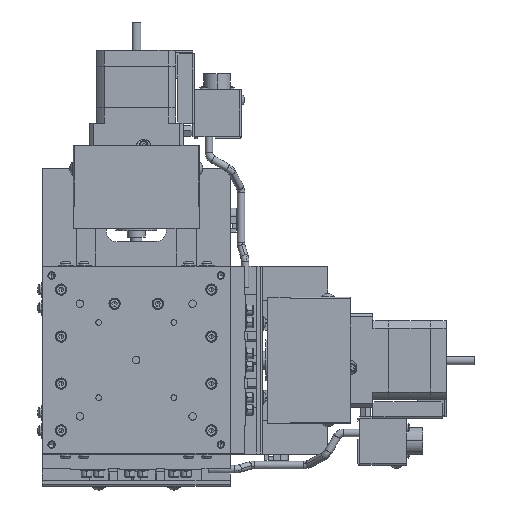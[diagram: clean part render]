
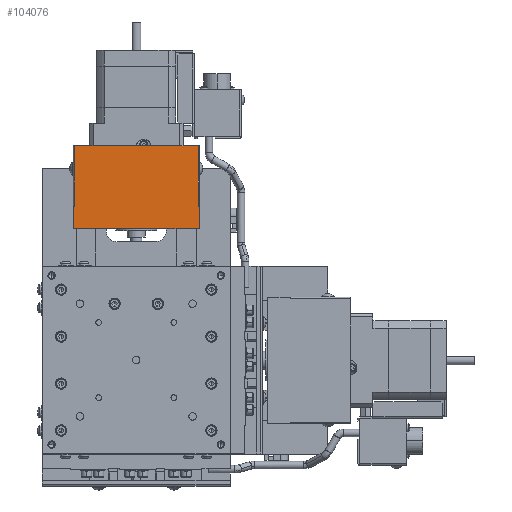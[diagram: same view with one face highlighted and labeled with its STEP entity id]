
A CAD part, top view. The second image highlights one B-rep face of the part: STEP entity #104076.
In plain terms, the highlighted planar face has unit normal (0, 0, 1).
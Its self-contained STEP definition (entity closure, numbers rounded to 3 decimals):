
#1183 = VERTEX_POINT ( 'NONE', #57768 ) ;
#3657 = ORIENTED_EDGE ( 'NONE', *, *, #50676, .T. ) ;
#5391 = DIRECTION ( 'NONE',  ( 0., 1., 0. ) ) ;
#8143 = DIRECTION ( 'NONE',  ( -1., 0., 0. ) ) ;
#10316 = ORIENTED_EDGE ( 'NONE', *, *, #33905, .T. ) ;
#12900 = DIRECTION ( 'NONE',  ( -1., 0., 0. ) ) ;
#13076 = CARTESIAN_POINT ( 'NONE',  ( -226.524, 171.479, -111.876 ) ) ;
#13754 = CARTESIAN_POINT ( 'NONE',  ( -226.524, 238.479, -111.876 ) ) ;
#14276 = CARTESIAN_POINT ( 'NONE',  ( -270.524, 205.011, -111.876 ) ) ;
#19861 = LINE ( 'NONE', #93762, #93294 ) ;
#20634 = CARTESIAN_POINT ( 'NONE',  ( -226.524, 238.479, -111.876 ) ) ;
#20731 = CARTESIAN_POINT ( 'NONE',  ( -238.524, 171.979, -111.876 ) ) ;
#21156 = EDGE_CURVE ( 'NONE', #67833, #86221, #19861, .T. ) ;
#21551 = DIRECTION ( 'NONE',  ( 0., 1., 0. ) ) ;
#22160 = ORIENTED_EDGE ( 'NONE', *, *, #57862, .F. ) ;
#24906 = CARTESIAN_POINT ( 'NONE',  ( -270.524, 204.979, -111.876 ) ) ;
#24981 = DIRECTION ( 'NONE',  ( 0., 1., 0. ) ) ;
#25788 = CARTESIAN_POINT ( 'NONE',  ( -270.524, 179.979, -111.876 ) ) ;
#26344 = DIRECTION ( 'NONE',  ( 0., 1., 0. ) ) ;
#27104 = VECTOR ( 'NONE', #48287, 1000. ) ;
#29024 = VERTEX_POINT ( 'NONE', #20634 ) ;
#29762 = LINE ( 'NONE', #69332, #118171 ) ;
#30378 = LINE ( 'NONE', #24906, #76894 ) ;
#32136 = LINE ( 'NONE', #13754, #116147 ) ;
#33905 = EDGE_CURVE ( 'NONE', #48019, #57407, #91704, .T. ) ;
#34183 = DIRECTION ( 'NONE',  ( 0., 1., 0. ) ) ;
#35701 = EDGE_CURVE ( 'NONE', #91743, #82474, #49614, .T. ) ;
#36647 = EDGE_CURVE ( 'NONE', #48019, #1183, #116751, .T. ) ;
#38147 = EDGE_CURVE ( 'NONE', #121317, #82474, #114741, .T. ) ;
#42861 = ORIENTED_EDGE ( 'NONE', *, *, #52518, .T. ) ;
#43053 = ORIENTED_EDGE ( 'NONE', *, *, #35701, .T. ) ;
#43363 = DIRECTION ( 'NONE',  ( 0., 1., 0. ) ) ;
#44913 = CARTESIAN_POINT ( 'NONE',  ( -270.524, 229.979, -111.876 ) ) ;
#46088 = ORIENTED_EDGE ( 'NONE', *, *, #38147, .F. ) ;
#46651 = EDGE_LOOP ( 'NONE', ( #46088, #58574, #3657, #42861, #76491, #10316, #105542, #116860, #89767, #70287, #22160, #43053 ) ) ;
#48019 = VERTEX_POINT ( 'NONE', #76308 ) ;
#48287 = DIRECTION ( 'NONE',  ( 1., 0., 0. ) ) ;
#49614 = LINE ( 'NONE', #76739, #27104 ) ;
#49996 = EDGE_CURVE ( 'NONE', #86221, #61525, #106765, .T. ) ;
#50676 = EDGE_CURVE ( 'NONE', #100469, #29024, #112557, .T. ) ;
#51959 = EDGE_CURVE ( 'NONE', #94556, #57407, #29762, .T. ) ;
#52518 = EDGE_CURVE ( 'NONE', #29024, #1183, #32136, .T. ) ;
#52898 = EDGE_CURVE ( 'NONE', #100469, #121317, #94441, .T. ) ;
#53250 = CARTESIAN_POINT ( 'NONE',  ( -238.524, 171.479, -111.876 ) ) ;
#55979 = PLANE ( 'NONE',  #56905 ) ;
#56905 = AXIS2_PLACEMENT_3D ( 'NONE', #92819, #104125, #8143 ) ;
#57407 = VERTEX_POINT ( 'NONE', #83237 ) ;
#57768 = CARTESIAN_POINT ( 'NONE',  ( -238.524, 238.479, -111.876 ) ) ;
#57862 = EDGE_CURVE ( 'NONE', #91743, #67833, #30378, .T. ) ;
#58412 = CARTESIAN_POINT ( 'NONE',  ( -270.524, 171.979, -111.876 ) ) ;
#58574 = ORIENTED_EDGE ( 'NONE', *, *, #52898, .F. ) ;
#61525 = VERTEX_POINT ( 'NONE', #77828 ) ;
#61796 = CARTESIAN_POINT ( 'NONE',  ( -270.524, 204.979, -111.876 ) ) ;
#65599 = EDGE_CURVE ( 'NONE', #61525, #94556, #88107, .T. ) ;
#67833 = VERTEX_POINT ( 'NONE', #25788 ) ;
#69332 = CARTESIAN_POINT ( 'NONE',  ( -270.524, 204.979, -111.876 ) ) ;
#70258 = VECTOR ( 'NONE', #5391, 1000. ) ;
#70287 = ORIENTED_EDGE ( 'NONE', *, *, #21156, .F. ) ;
#72329 = CARTESIAN_POINT ( 'NONE',  ( -238.524, 171.479, -111.876 ) ) ;
#76308 = CARTESIAN_POINT ( 'NONE',  ( -238.524, 237.979, -111.876 ) ) ;
#76491 = ORIENTED_EDGE ( 'NONE', *, *, #36647, .F. ) ;
#76739 = CARTESIAN_POINT ( 'NONE',  ( -254.524, 171.979, -111.876 ) ) ;
#76894 = VECTOR ( 'NONE', #119578, 1000. ) ;
#77828 = CARTESIAN_POINT ( 'NONE',  ( -270.524, 212.948, -111.876 ) ) ;
#82474 = VERTEX_POINT ( 'NONE', #20731 ) ;
#83237 = CARTESIAN_POINT ( 'NONE',  ( -270.524, 237.979, -111.876 ) ) ;
#84303 = CARTESIAN_POINT ( 'NONE',  ( -254.524, 237.979, -111.876 ) ) ;
#86221 = VERTEX_POINT ( 'NONE', #14276 ) ;
#87802 = VECTOR ( 'NONE', #34183, 1000. ) ;
#88107 = LINE ( 'NONE', #61796, #92686 ) ;
#89767 = ORIENTED_EDGE ( 'NONE', *, *, #49996, .F. ) ;
#89771 = DIRECTION ( 'NONE',  ( -1., 0., 0. ) ) ;
#89966 = VECTOR ( 'NONE', #89771, 1000. ) ;
#90481 = FACE_OUTER_BOUND ( 'NONE', #46651, .T. ) ;
#91704 = LINE ( 'NONE', #84303, #109763 ) ;
#91743 = VERTEX_POINT ( 'NONE', #58412 ) ;
#92686 = VECTOR ( 'NONE', #43363, 1000. ) ;
#92819 = CARTESIAN_POINT ( 'NONE',  ( -226.524, 171.479, -111.876 ) ) ;
#93294 = VECTOR ( 'NONE', #26344, 1000. ) ;
#93762 = CARTESIAN_POINT ( 'NONE',  ( -270.524, 204.979, -111.876 ) ) ;
#94441 = LINE ( 'NONE', #13076, #89966 ) ;
#94556 = VERTEX_POINT ( 'NONE', #44913 ) ;
#96854 = DIRECTION ( 'NONE',  ( 0., 1., 0. ) ) ;
#100469 = VERTEX_POINT ( 'NONE', #119363 ) ;
#102239 = VECTOR ( 'NONE', #24981, 1000. ) ;
#103620 = DIRECTION ( 'NONE',  ( -1., 0., 0. ) ) ;
#104076 = ADVANCED_FACE ( 'NONE', ( #90481 ), #55979, .T. ) ;
#104125 = DIRECTION ( 'NONE',  ( 0., 0., 1. ) ) ;
#105542 = ORIENTED_EDGE ( 'NONE', *, *, #51959, .F. ) ;
#106765 = LINE ( 'NONE', #123019, #102239 ) ;
#106865 = CARTESIAN_POINT ( 'NONE',  ( -226.524, 171.479, -111.876 ) ) ;
#109763 = VECTOR ( 'NONE', #103620, 1000. ) ;
#112557 = LINE ( 'NONE', #106865, #121564 ) ;
#114741 = LINE ( 'NONE', #72329, #87802 ) ;
#116147 = VECTOR ( 'NONE', #12900, 1000. ) ;
#116751 = LINE ( 'NONE', #53250, #70258 ) ;
#116860 = ORIENTED_EDGE ( 'NONE', *, *, #65599, .F. ) ;
#118171 = VECTOR ( 'NONE', #21551, 1000. ) ;
#119363 = CARTESIAN_POINT ( 'NONE',  ( -226.524, 171.479, -111.876 ) ) ;
#119578 = DIRECTION ( 'NONE',  ( 0., 1., 0. ) ) ;
#121317 = VERTEX_POINT ( 'NONE', #121892 ) ;
#121564 = VECTOR ( 'NONE', #96854, 1000. ) ;
#121892 = CARTESIAN_POINT ( 'NONE',  ( -238.524, 171.479, -111.876 ) ) ;
#123019 = CARTESIAN_POINT ( 'NONE',  ( -270.524, 204.979, -111.876 ) ) ;
